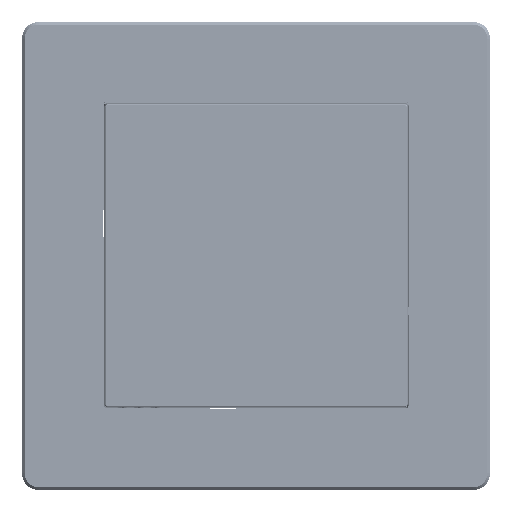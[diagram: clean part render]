
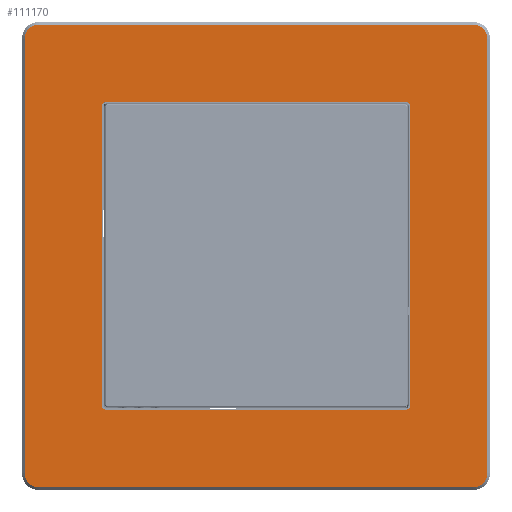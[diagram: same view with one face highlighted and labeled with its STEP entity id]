
A CAD part, top view. The second image highlights one B-rep face of the part: STEP entity #111170.
In plain terms, the highlighted planar face has unit normal (0, 0, 1) as drawn and (0, 1, 0) by its records, which use the part's own axes.
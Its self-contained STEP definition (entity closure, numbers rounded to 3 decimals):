
#8157=CIRCLE('',#120045,2.5);
#8159=CIRCLE('',#120049,2.5);
#8160=CIRCLE('',#120052,2.5);
#8161=CIRCLE('',#120055,2.5);
#8162=CIRCLE('',#120060,0.5);
#8163=CIRCLE('',#120061,0.5);
#8164=CIRCLE('',#120062,0.5);
#8165=CIRCLE('',#120063,0.5);
#11521=FACE_BOUND('',#23675,.T.);
#15650=FACE_OUTER_BOUND('',#23674,.T.);
#23674=EDGE_LOOP('',(#91491,#91492,#91493,#91494,#91495,#91496,#91497,#91498));
#23675=EDGE_LOOP('',(#91499,#91500,#91501,#91502,#91503,#91504,#91505,#91506));
#31910=LINE('',#183331,#41785);
#31914=LINE('',#183343,#41789);
#31918=LINE('',#183354,#41793);
#31922=LINE('',#183363,#41797);
#31926=LINE('',#183375,#41801);
#31927=LINE('',#183379,#41802);
#31928=LINE('',#183383,#41803);
#31929=LINE('',#183387,#41804);
#41785=VECTOR('',#141127,79.);
#41789=VECTOR('',#141139,79.);
#41793=VECTOR('',#141151,79.);
#41797=VECTOR('',#141161,79.);
#41801=VECTOR('',#141177,54.8);
#41802=VECTOR('',#141180,54.8);
#41803=VECTOR('',#141183,54.8);
#41804=VECTOR('',#141186,54.8);
#53064=VERTEX_POINT('',#183328);
#53065=VERTEX_POINT('',#183330);
#53067=VERTEX_POINT('',#183336);
#53069=VERTEX_POINT('',#183341);
#53071=VERTEX_POINT('',#183348);
#53072=VERTEX_POINT('',#183352);
#53073=VERTEX_POINT('',#183357);
#53074=VERTEX_POINT('',#183361);
#53075=VERTEX_POINT('',#183373);
#53076=VERTEX_POINT('',#183374);
#53077=VERTEX_POINT('',#183376);
#53078=VERTEX_POINT('',#183378);
#53079=VERTEX_POINT('',#183380);
#53080=VERTEX_POINT('',#183382);
#53081=VERTEX_POINT('',#183384);
#53082=VERTEX_POINT('',#183386);
#66498=EDGE_CURVE('',#53064,#53065,#31910,.T.);
#66502=EDGE_CURVE('',#53067,#53064,#8157,.T.);
#66504=EDGE_CURVE('',#53069,#53067,#31914,.T.);
#66508=EDGE_CURVE('',#53071,#53069,#8159,.T.);
#66510=EDGE_CURVE('',#53072,#53071,#31918,.T.);
#66513=EDGE_CURVE('',#53073,#53072,#8160,.T.);
#66515=EDGE_CURVE('',#53074,#53073,#31922,.T.);
#66516=EDGE_CURVE('',#53065,#53074,#8161,.T.);
#66520=EDGE_CURVE('',#53075,#53076,#31926,.T.);
#66521=EDGE_CURVE('',#53077,#53076,#8162,.T.);
#66522=EDGE_CURVE('',#53077,#53078,#31927,.T.);
#66523=EDGE_CURVE('',#53079,#53078,#8163,.T.);
#66524=EDGE_CURVE('',#53079,#53080,#31928,.T.);
#66525=EDGE_CURVE('',#53081,#53080,#8164,.T.);
#66526=EDGE_CURVE('',#53081,#53082,#31929,.T.);
#66527=EDGE_CURVE('',#53075,#53082,#8165,.T.);
#91491=ORIENTED_EDGE('',*,*,#66498,.F.);
#91492=ORIENTED_EDGE('',*,*,#66502,.F.);
#91493=ORIENTED_EDGE('',*,*,#66504,.F.);
#91494=ORIENTED_EDGE('',*,*,#66508,.F.);
#91495=ORIENTED_EDGE('',*,*,#66510,.F.);
#91496=ORIENTED_EDGE('',*,*,#66513,.F.);
#91497=ORIENTED_EDGE('',*,*,#66515,.F.);
#91498=ORIENTED_EDGE('',*,*,#66516,.F.);
#91499=ORIENTED_EDGE('',*,*,#66520,.T.);
#91500=ORIENTED_EDGE('',*,*,#66521,.F.);
#91501=ORIENTED_EDGE('',*,*,#66522,.T.);
#91502=ORIENTED_EDGE('',*,*,#66523,.F.);
#91503=ORIENTED_EDGE('',*,*,#66524,.T.);
#91504=ORIENTED_EDGE('',*,*,#66525,.F.);
#91505=ORIENTED_EDGE('',*,*,#66526,.T.);
#91506=ORIENTED_EDGE('',*,*,#66527,.F.);
#105488=PLANE('',#120059);
#111170=ADVANCED_FACE('',(#15650,#11521),#105488,.T.);
#120045=AXIS2_PLACEMENT_3D('',#183338,#141134,#141135);
#120049=AXIS2_PLACEMENT_3D('',#183350,#141146,#141147);
#120052=AXIS2_PLACEMENT_3D('',#183359,#141156,#141157);
#120055=AXIS2_PLACEMENT_3D('',#183365,#141164,#141165);
#120059=AXIS2_PLACEMENT_3D('',#183372,#141175,#141176);
#120060=AXIS2_PLACEMENT_3D('',#183377,#141178,#141179);
#120061=AXIS2_PLACEMENT_3D('',#183381,#141181,#141182);
#120062=AXIS2_PLACEMENT_3D('',#183385,#141184,#141185);
#120063=AXIS2_PLACEMENT_3D('',#183388,#141187,#141188);
#141127=DIRECTION('',(1.,0.,0.));
#141134=DIRECTION('center_axis',(0.,-1.,0.));
#141135=DIRECTION('ref_axis',(-0.707,0.,-0.707));
#141139=DIRECTION('',(0.,0.,-1.));
#141146=DIRECTION('center_axis',(0.,-1.,0.));
#141147=DIRECTION('ref_axis',(-0.707,0.,0.707));
#141151=DIRECTION('',(-1.,0.,0.));
#141156=DIRECTION('center_axis',(0.,-1.,0.));
#141157=DIRECTION('ref_axis',(0.707,0.,0.707));
#141161=DIRECTION('',(0.,0.,1.));
#141164=DIRECTION('center_axis',(0.,-1.,0.));
#141165=DIRECTION('ref_axis',(0.707,0.,-0.707));
#141175=DIRECTION('center_axis',(0.,1.,0.));
#141176=DIRECTION('ref_axis',(0.,0.,1.));
#141177=DIRECTION('',(0.,0.,-1.));
#141178=DIRECTION('center_axis',(0.,1.,0.));
#141179=DIRECTION('ref_axis',(-0.707,0.,-0.707));
#141180=DIRECTION('',(1.,0.,0.));
#141181=DIRECTION('center_axis',(0.,1.,0.));
#141182=DIRECTION('ref_axis',(0.707,0.,-0.707));
#141183=DIRECTION('',(0.,0.,1.));
#141184=DIRECTION('center_axis',(0.,1.,0.));
#141185=DIRECTION('ref_axis',(0.707,0.,0.707));
#141186=DIRECTION('',(-1.,0.,0.));
#141187=DIRECTION('center_axis',(0.,1.,0.));
#141188=DIRECTION('ref_axis',(-0.707,0.,0.707));
#183328=CARTESIAN_POINT('',(-49.5,8.5,-77.4));
#183330=CARTESIAN_POINT('',(29.5,8.5,-77.4));
#183331=CARTESIAN_POINT('',(-49.5,8.5,-77.4));
#183336=CARTESIAN_POINT('',(-52.,8.5,-74.9));
#183338=CARTESIAN_POINT('Origin',(-49.5,8.5,-74.9));
#183341=CARTESIAN_POINT('',(-52.,8.5,4.1));
#183343=CARTESIAN_POINT('',(-52.,8.5,4.1));
#183348=CARTESIAN_POINT('',(-49.5,8.5,6.6));
#183350=CARTESIAN_POINT('Origin',(-49.5,8.5,4.1));
#183352=CARTESIAN_POINT('',(29.5,8.5,6.6));
#183354=CARTESIAN_POINT('',(29.5,8.5,6.6));
#183357=CARTESIAN_POINT('',(32.,8.5,4.1));
#183359=CARTESIAN_POINT('Origin',(29.5,8.5,4.1));
#183361=CARTESIAN_POINT('',(32.,8.5,-74.9));
#183363=CARTESIAN_POINT('',(32.,8.5,-74.9));
#183365=CARTESIAN_POINT('Origin',(29.5,8.5,-74.9));
#183372=CARTESIAN_POINT('Origin',(-10.,8.5,-35.4));
#183373=CARTESIAN_POINT('',(-37.9,8.5,-8.));
#183374=CARTESIAN_POINT('',(-37.9,8.5,-62.8));
#183375=CARTESIAN_POINT('',(-37.9,8.5,-8.));
#183376=CARTESIAN_POINT('',(-37.4,8.5,-63.3));
#183377=CARTESIAN_POINT('Origin',(-37.4,8.5,-62.8));
#183378=CARTESIAN_POINT('',(17.4,8.5,-63.3));
#183379=CARTESIAN_POINT('',(-37.4,8.5,-63.3));
#183380=CARTESIAN_POINT('',(17.9,8.5,-62.8));
#183381=CARTESIAN_POINT('Origin',(17.4,8.5,-62.8));
#183382=CARTESIAN_POINT('',(17.9,8.5,-8.));
#183383=CARTESIAN_POINT('',(17.9,8.5,-62.8));
#183384=CARTESIAN_POINT('',(17.4,8.5,-7.5));
#183385=CARTESIAN_POINT('Origin',(17.4,8.5,-8.));
#183386=CARTESIAN_POINT('',(-37.4,8.5,-7.5));
#183387=CARTESIAN_POINT('',(17.4,8.5,-7.5));
#183388=CARTESIAN_POINT('Origin',(-37.4,8.5,-8.));
